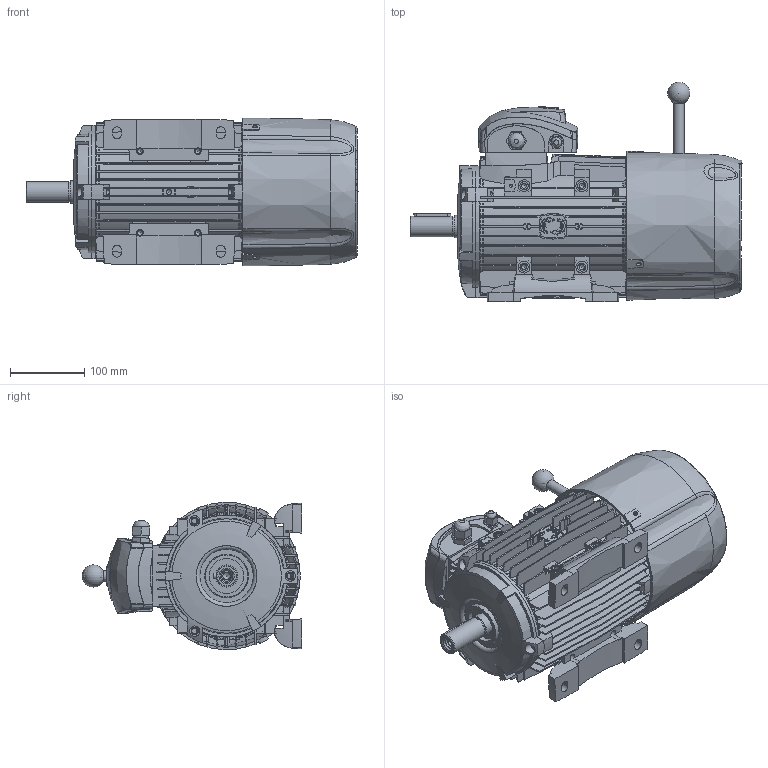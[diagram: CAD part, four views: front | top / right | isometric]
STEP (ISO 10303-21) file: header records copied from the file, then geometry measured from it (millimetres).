
FILE_DESCRIPTION((''),'2;1');
FILE_NAME('D:\htdocs\motive\source_step\M100.stp','2014-09-10T11:15:54',('ing.Casini'),(''),'Autodesk Inventor 2010','Autodesk Inventor 2010','');
FILE_SCHEMA(('AUTOMOTIVE_DESIGN { 1 0 10303 214 1 1 1 1 }'));
Length unit declared in the file: millimetre
Products named in the file (7): M100 Lighter motor Assly_01.09; BODY100; B3100; SH100_With Key; FEET100_1; TBOXATDC90_100; FCVATDC100
Assembly tree (7 placements, depth 2):
  M100 Lighter motor Assly_01.09
    BODY100
    B3100
    SH100_With Key
    FEET100_1  x2
    TBOXATDC90_100
    FCVATDC100
Bounding box: 448.3 x 296.36 x 199.09 mm (x, y, z)
Volume: 6250817.2 mm3; surface area: 894874.1 mm2
Topology: 9 solids, 9 shells, 2423 faces, 6813 edges, 4539 vertices
Faces by surface type: plane 1025, bspline 561, cylinder 506, cone 172, torus 158, sphere 1
Full cylindrical faces by diameter (mm): 2.5 x4, 4.2 x11, 5 x3, 5.4 x3, 6 x3, 6.8 x13, 8 x6, 9 x4, 10 x4, 11 x12, 12 x1, 13.8 x1, 14 x4, 20 x1, 25 x1, 27 x1, 28 x1, 30 x2, 47 x1, 52 x1, 62 x2, 65 x1, 82 x1, 156 x1
Entity records: 117162 total; most frequent: CARTESIAN_POINT 61395, ORIENTED_EDGE 12960, DIRECTION 9360, EDGE_CURVE 6480, VERTEX_POINT 4390, AXIS2_PLACEMENT_3D 3358, EDGE_LOOP 2660, VECTOR 2644
